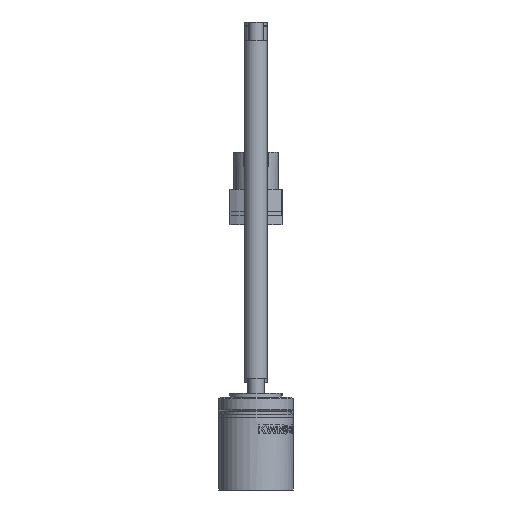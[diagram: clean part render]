
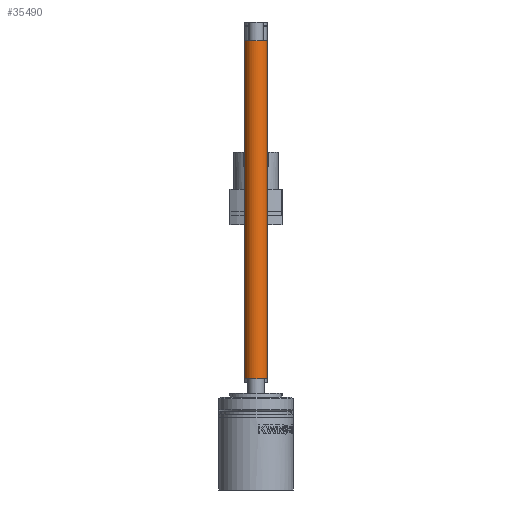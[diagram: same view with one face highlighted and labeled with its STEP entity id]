
A CAD part, left-side view. The second image highlights one B-rep face of the part: STEP entity #35490.
In plain terms, the highlighted cylindrical face has radius 1.5 mm (diameter 3 mm), a full revolution.
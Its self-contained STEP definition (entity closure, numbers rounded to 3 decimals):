
#35490=ADVANCED_FACE('',(#38256,#38257),#36236,.T.);
#36236=CYLINDRICAL_SURFACE('',#85391,1.5);
#38256=FACE_BOUND('',#43264,.T.);
#38257=FACE_BOUND('',#43265,.T.);
#43264=EDGE_LOOP('',(#60812));
#43265=EDGE_LOOP('',(#60813));
#60812=ORIENTED_EDGE('',*,*,#75742,.F.);
#60813=ORIENTED_EDGE('',*,*,#75741,.F.);
#66967=VERTEX_POINT('',#177901);
#66968=VERTEX_POINT('',#177904);
#75741=EDGE_CURVE('',#66967,#66967,#77688,.T.);
#75742=EDGE_CURVE('',#66968,#66968,#77689,.T.);
#77688=CIRCLE('',#85388,1.5);
#77689=CIRCLE('',#85390,1.5);
#85388=AXIS2_PLACEMENT_3D('',#177900,#97202,#97203);
#85390=AXIS2_PLACEMENT_3D('',#177903,#97206,#97207);
#85391=AXIS2_PLACEMENT_3D('',#177905,#97208,#97209);
#97202=DIRECTION('',(0.,0.,1.));
#97203=DIRECTION('',(-1.,0.,0.));
#97206=DIRECTION('',(0.,0.,-1.));
#97207=DIRECTION('',(-1.,0.,0.));
#97208=DIRECTION('',(0.,0.,-1.));
#97209=DIRECTION('',(-1.,0.,0.));
#177900=CARTESIAN_POINT('',(-186.,0.,60.5));
#177901=CARTESIAN_POINT('',(-187.5,0.,60.5));
#177903=CARTESIAN_POINT('',(-186.,0.,15.));
#177904=CARTESIAN_POINT('',(-187.5,0.,15.));
#177905=CARTESIAN_POINT('',(-186.,0.,12.5));
